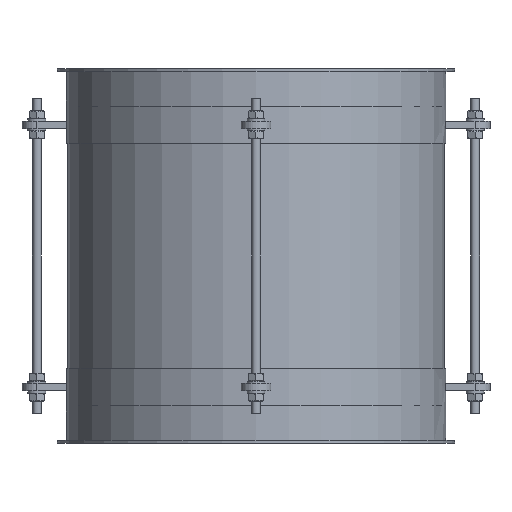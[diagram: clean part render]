
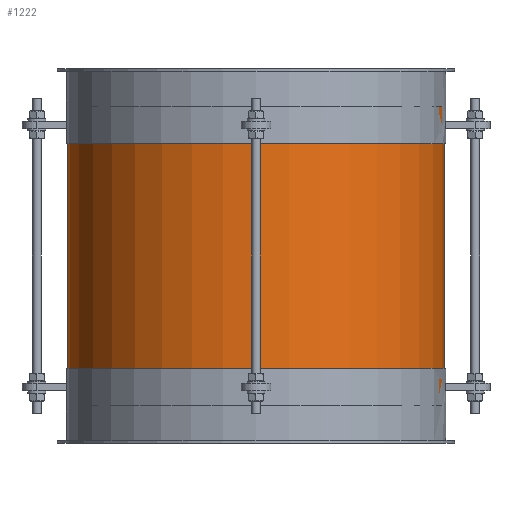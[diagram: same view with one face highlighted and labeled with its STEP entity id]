
A CAD part, front view. The second image highlights one B-rep face of the part: STEP entity #1222.
In plain terms, the highlighted cylindrical face has radius 125.75 mm (diameter 251.5 mm), a full revolution.
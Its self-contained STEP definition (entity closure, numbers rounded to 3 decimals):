
#1195=CARTESIAN_POINT('',(0.0,0.0,0.0));
#1196=DIRECTION('',(0.0,0.0,1.0));
#1197=DIRECTION('',(-1.0,0.0,0.0));
#1198=AXIS2_PLACEMENT_3D('',#1195,#1196,#1197);
#1199=CYLINDRICAL_SURFACE('',#1198,125.75);
#1200=CARTESIAN_POINT('',(125.75,0.,200.0));
#1201=VERTEX_POINT('',#1200);
#1202=CARTESIAN_POINT('',(0.0,0.0,200.0));
#1203=DIRECTION('',(0.0,0.0,-1.0));
#1204=DIRECTION('',(-1.0,0.0,0.0));
#1205=AXIS2_PLACEMENT_3D('',#1202,#1203,#1204);
#1206=CIRCLE('',#1205,125.75);
#1207=EDGE_CURVE('',#1201,#1201,#1206,.T.);
#1208=ORIENTED_EDGE('',*,*,#1207,.T.);
#1209=EDGE_LOOP('',(#1208));
#1210=FACE_OUTER_BOUND('',#1209,.T.);
#1211=CARTESIAN_POINT('',(125.75,0.,0.0));
#1212=VERTEX_POINT('',#1211);
#1213=CARTESIAN_POINT('',(0.0,0.0,0.0));
#1214=DIRECTION('',(0.0,0.0,-1.0));
#1215=DIRECTION('',(-1.0,0.0,0.0));
#1216=AXIS2_PLACEMENT_3D('',#1213,#1214,#1215);
#1217=CIRCLE('',#1216,125.75);
#1218=EDGE_CURVE('',#1212,#1212,#1217,.T.);
#1219=ORIENTED_EDGE('',*,*,#1218,.F.);
#1220=EDGE_LOOP('',(#1219));
#1221=FACE_BOUND('',#1220,.T.);
#1222=ADVANCED_FACE('',(#1210,#1221),#1199,.T.);
